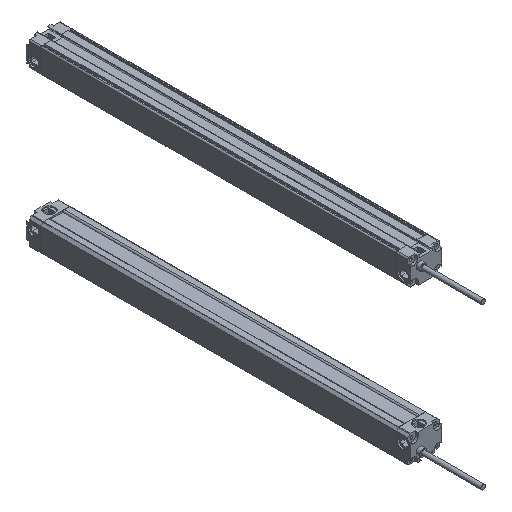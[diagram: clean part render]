
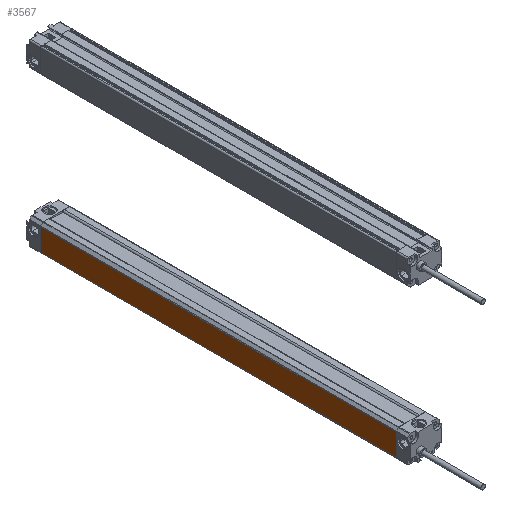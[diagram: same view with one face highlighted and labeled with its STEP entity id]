
A CAD part, isometric view. The second image highlights one B-rep face of the part: STEP entity #3567.
In plain terms, the highlighted planar face has unit normal (-1, 0, 0).
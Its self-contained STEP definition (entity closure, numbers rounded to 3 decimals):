
#1028 = VECTOR ( 'NONE', #10846, 1000. ) ;
#1175 = CARTESIAN_POINT ( 'NONE',  ( -12.5, -280., 8.293 ) ) ;
#1278 = ORIENTED_EDGE ( 'NONE', *, *, #8470, .F. ) ;
#1805 = LINE ( 'NONE', #10129, #1028 ) ;
#1957 = VERTEX_POINT ( 'NONE', #9729 ) ;
#2372 = EDGE_LOOP ( 'NONE', ( #3383, #1278, #9026, #6406 ) ) ;
#2448 = DIRECTION ( 'NONE',  ( 0., 0., 1. ) ) ;
#2630 = VECTOR ( 'NONE', #4011, 1000. ) ;
#2826 = DIRECTION ( 'NONE',  ( 0., 0., 1. ) ) ;
#2832 = VERTEX_POINT ( 'NONE', #10879 ) ;
#3008 = EDGE_CURVE ( 'NONE', #1957, #2832, #7448, .T. ) ;
#3383 = ORIENTED_EDGE ( 'NONE', *, *, #3008, .F. ) ;
#3567 = ADVANCED_FACE ( 'NONE', ( #8917 ), #3610, .T. ) ;
#3610 = PLANE ( 'NONE',  #9106 ) ;
#4011 = DIRECTION ( 'NONE',  ( 0., 1., 0. ) ) ;
#5440 = EDGE_CURVE ( 'NONE', #10157, #2832, #1805, .T. ) ;
#5995 = VECTOR ( 'NONE', #2448, 1000. ) ;
#6406 = ORIENTED_EDGE ( 'NONE', *, *, #5440, .T. ) ;
#7126 = VECTOR ( 'NONE', #9058, 1000. ) ;
#7448 = LINE ( 'NONE', #7648, #5995 ) ;
#7648 = CARTESIAN_POINT ( 'NONE',  ( -12.5, 0., -9.2 ) ) ;
#7913 = DIRECTION ( 'NONE',  ( -1., 0., 0. ) ) ;
#8230 = CARTESIAN_POINT ( 'NONE',  ( -12.5, -280., -9.2 ) ) ;
#8470 = EDGE_CURVE ( 'NONE', #9446, #1957, #9142, .T. ) ;
#8917 = FACE_OUTER_BOUND ( 'NONE', #2372, .T. ) ;
#9026 = ORIENTED_EDGE ( 'NONE', *, *, #10899, .T. ) ;
#9058 = DIRECTION ( 'NONE',  ( 0., 0., 1. ) ) ;
#9106 = AXIS2_PLACEMENT_3D ( 'NONE', #9500, #7913, #2826 ) ;
#9142 = LINE ( 'NONE', #8230, #2630 ) ;
#9446 = VERTEX_POINT ( 'NONE', #10595 ) ;
#9500 = CARTESIAN_POINT ( 'NONE',  ( -12.5, -280., -9.2 ) ) ;
#9729 = CARTESIAN_POINT ( 'NONE',  ( -12.5, 0., -9.2 ) ) ;
#9787 = LINE ( 'NONE', #10756, #7126 ) ;
#10129 = CARTESIAN_POINT ( 'NONE',  ( -12.5, -280., 8.293 ) ) ;
#10157 = VERTEX_POINT ( 'NONE', #1175 ) ;
#10595 = CARTESIAN_POINT ( 'NONE',  ( -12.5, -280., -9.2 ) ) ;
#10756 = CARTESIAN_POINT ( 'NONE',  ( -12.5, -280., -9.2 ) ) ;
#10846 = DIRECTION ( 'NONE',  ( 0., 1., 0. ) ) ;
#10879 = CARTESIAN_POINT ( 'NONE',  ( -12.5, 0., 8.293 ) ) ;
#10899 = EDGE_CURVE ( 'NONE', #9446, #10157, #9787, .T. ) ;
